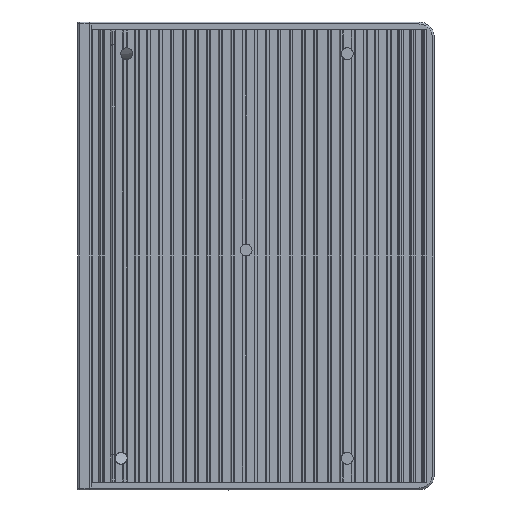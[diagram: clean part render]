
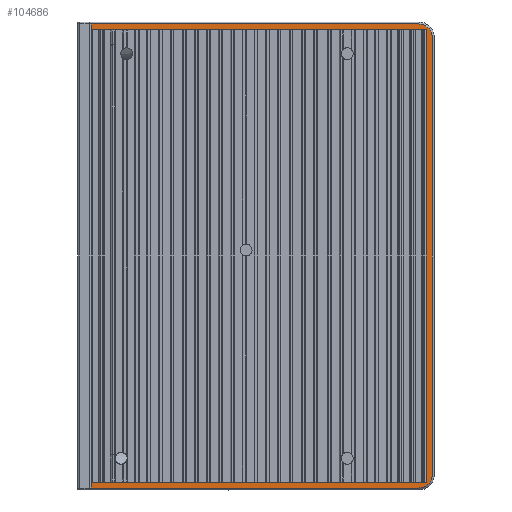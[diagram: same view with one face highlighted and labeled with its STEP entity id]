
A CAD part, left-side view. The second image highlights one B-rep face of the part: STEP entity #104686.
In plain terms, the highlighted planar face has unit normal (-1, 0, 0) as drawn and (0, -1, 0) by its records, which use the part's own axes.
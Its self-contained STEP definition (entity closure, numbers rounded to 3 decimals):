
#93169=DIRECTION('',(1.,0.,0.));
#93170=VECTOR('',#93169,1.5);
#93171=CARTESIAN_POINT('',(58.5,-9.,-110.5));
#93172=LINE('',#93171,#93170);
#93213=DIRECTION('',(1.,0.,0.));
#93214=VECTOR('',#93213,1.5);
#93215=CARTESIAN_POINT('',(-57.,-9.,-110.5));
#93216=LINE('',#93215,#93214);
#95731=DIRECTION('',(1.,0.,0.));
#95732=VECTOR('',#95731,110.);
#95733=CARTESIAN_POINT('',(-53.5,-9.,
-24.5));
#95734=LINE('',#95733,#95732);
#95735=CARTESIAN_POINT('',(56.5,-9.,-28.));
#95736=DIRECTION('',(0.,1.,0.));
#95737=DIRECTION('',(0.,0.,1.));
#95738=AXIS2_PLACEMENT_3D('',#95735,#95736,#95737);
#95740=DIRECTION('',(0.,0.,-1.));
#95741=VECTOR('',#95740,82.5);
#95742=CARTESIAN_POINT('',(60.,-9.,
-28.));
#95743=LINE('',#95742,#95741);
#95744=DIRECTION('',(0.,0.,1.));
#95745=VECTOR('',#95744,84.5);
#95746=CARTESIAN_POINT('',(58.5,-9.,-110.5));
#95747=LINE('',#95746,#95745);
#95748=DIRECTION('',(-1.,0.,0.));
#95749=VECTOR('',#95748,114.);
#95750=CARTESIAN_POINT('',(58.5,-9.,-26.));
#95751=LINE('',#95750,#95749);
#95752=DIRECTION('',(0.,0.,-1.));
#95753=VECTOR('',#95752,84.5);
#95754=CARTESIAN_POINT('',(-55.5,-9.,-26.));
#95755=LINE('',#95754,#95753);
#95756=DIRECTION('',(0.,0.,1.));
#95757=VECTOR('',#95756,82.5);
#95758=CARTESIAN_POINT('',(-57.,-9.,-110.5));
#95759=LINE('',#95758,#95757);
#95760=CARTESIAN_POINT('',(-53.5,-9.,-28.));
#95761=DIRECTION('',(0.,1.,0.));
#95762=DIRECTION('',(-1.,0.,0.));
#95763=AXIS2_PLACEMENT_3D('',#95760,#95761,#95762);
#99504=CARTESIAN_POINT('',(58.5,-9.,-26.));
#99506=VERTEX_POINT('',#99504);
#99586=CARTESIAN_POINT('',(-55.5,-9.,-26.));
#99587=VERTEX_POINT('',#99586);
#99794=CARTESIAN_POINT('',(58.5,-9.,-110.5));
#99795=VERTEX_POINT('',#99794);
#100262=CARTESIAN_POINT('',(60.,-9.,
-28.));
#100263=CARTESIAN_POINT('',(60.,-9.,-110.5));
#100264=VERTEX_POINT('',#100262);
#100265=VERTEX_POINT('',#100263);
#100266=CARTESIAN_POINT('',(-53.5,-9.,
-24.5));
#100267=CARTESIAN_POINT('',(56.5,-9.,
-24.5));
#100268=VERTEX_POINT('',#100266);
#100269=VERTEX_POINT('',#100267);
#100270=CARTESIAN_POINT('',(-55.5,-9.,-110.5));
#100271=VERTEX_POINT('',#100270);
#100272=CARTESIAN_POINT('',(-57.,-9.,-110.5));
#100273=VERTEX_POINT('',#100272);
#100274=CARTESIAN_POINT('',(-57.,-9.,
-28.));
#100275=VERTEX_POINT('',#100274);
#104664=CARTESIAN_POINT('',(-57.5,-9.,-26.15));
#104665=DIRECTION('',(0.,-1.,0.));
#104666=DIRECTION('',(1.,0.,0.));
#104667=AXIS2_PLACEMENT_3D('',#104664,#104665,#104666);
#104668=PLANE('',#104667);
#104670=ORIENTED_EDGE('',*,*,#104669,.T.);
#104672=ORIENTED_EDGE('',*,*,#104671,.T.);
#104674=ORIENTED_EDGE('',*,*,#104673,.T.);
#104675=ORIENTED_EDGE('',*,*,#102086,.F.);
#104676=ORIENTED_EDGE('',*,*,#103336,.T.);
#104677=ORIENTED_EDGE('',*,*,#103264,.T.);
#104678=ORIENTED_EDGE('',*,*,#102515,.T.);
#104679=ORIENTED_EDGE('',*,*,#102106,.F.);
#104681=ORIENTED_EDGE('',*,*,#104680,.T.);
#104683=ORIENTED_EDGE('',*,*,#104682,.T.);
#104684=EDGE_LOOP('',(#104670,#104672,#104674,#104675,#104676,#104677,#104678,
#104679,#104681,#104683));
#104685=FACE_OUTER_BOUND('',#104684,.F.);
#95739=CIRCLE('',#95738,3.5);
#95764=CIRCLE('',#95763,3.5);
#102086=EDGE_CURVE('',#99795,#100265,#93172,.T.);
#102106=EDGE_CURVE('',#100273,#100271,#93216,.T.);
#102515=EDGE_CURVE('',#99587,#100271,#95755,.T.);
#103264=EDGE_CURVE('',#99506,#99587,#95751,.T.);
#103336=EDGE_CURVE('',#99795,#99506,#95747,.T.);
#104669=EDGE_CURVE('',#100268,#100269,#95734,.T.);
#104671=EDGE_CURVE('',#100269,#100264,#95739,.T.);
#104673=EDGE_CURVE('',#100264,#100265,#95743,.T.);
#104680=EDGE_CURVE('',#100273,#100275,#95759,.T.);
#104682=EDGE_CURVE('',#100275,#100268,#95764,.T.);
#104686=ADVANCED_FACE('',(#104685),#104668,.T.);
